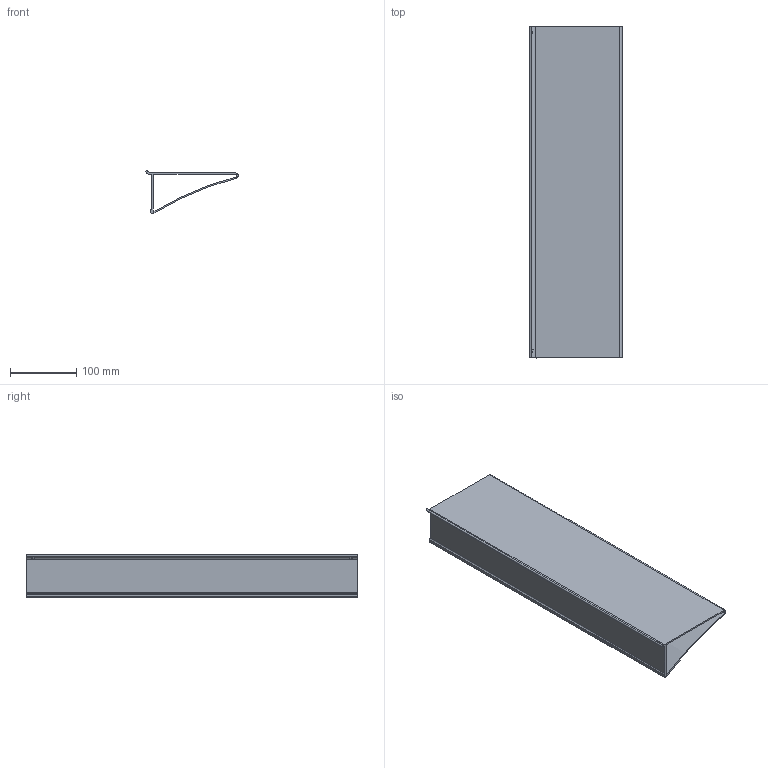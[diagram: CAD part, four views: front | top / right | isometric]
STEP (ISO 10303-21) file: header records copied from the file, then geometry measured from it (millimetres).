
FILE_DESCRIPTION(/* description */ ('Unknown'),/* implementation_level */ '2;1');
FILE_NAME(/* name */ '032 038 05 ALU półka L=500',/* time_stamp */ '2023-04-17T14:55:32+02:00',/* author */ ('Unknown'),/* organization */ ('Unknown'),/* preprocessor_version */ 'ST-DEVELOPER v18.102',/* originating_system */ 'Solid Edge',/* authorisation */ 'Unknown');
FILE_SCHEMA (('AUTOMOTIVE_DESIGN {1 0 10303 214 3 1 1}'));
Length unit declared in the file: millimetre
Products named in the file (3): 032 038 05 ALU pó³ka L=500; 032 038 05-01; Wa³ek silikon
Assembly tree (3 placements, depth 2):
  032 038 05 ALU pó³ka L=500
    032 038 05-01
    Wa³ek silikon  x2
Bounding box: 139 x 500 x 64.46 mm (x, y, z)
Volume: 363037.5 mm3; surface area: 340212.9 mm2
Topology: 3 solids, 3 shells, 37 faces, 93 edges, 62 vertices
Faces by surface type: plane 21, cylinder 16
Entity records: 1334 total; most frequent: DIRECTION 199, CARTESIAN_POINT 182, ORIENTED_EDGE 174, EDGE_CURVE 87, AXIS2_PLACEMENT_3D 75, VERTEX_POINT 58, LINE 49, VECTOR 49
